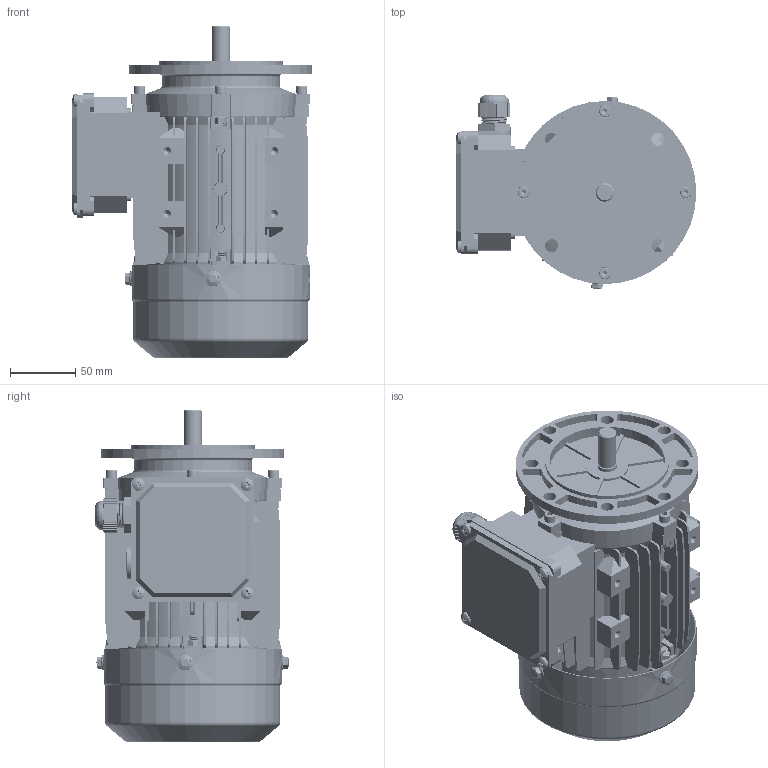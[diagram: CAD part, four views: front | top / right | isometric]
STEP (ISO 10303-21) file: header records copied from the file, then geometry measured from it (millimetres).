
FILE_DESCRIPTION (( 'STEP AP203' ), '1' );
FILE_NAME ('MS71L B5R 3D蚾饜芞.STEP', '2024-08-23T08:09:55', ( 'User' ), ( 'China' ), 'SwSTEP 2.0', 'SolidWorks 2018', '' );
FILE_SCHEMA (( 'CONFIG_CONTROL_DESIGN' ));
Length unit declared in the file: millimetre
Products named in the file (18): MS63-71諉盄碟菁釱; 蹟簸M20X1.5; MS71B5R; 黑芛20X1.5; spring lock washers--normal type gb_GB_FASTENER_WASHER_SW 5; 蚐猾25X14X4; hex nuts, style 2-grades ab gb_GB_HEXAGON_TYPE13 M5 Normal Style-S; hexagon socket head cap screws gb_GB_FASTENER_SCREWS_HSHCS M5X25-S; 8.034.07101MS71 L儂褲; MS71L  B5R  3D蚾饜芞; hex nuts, style 1-grades ab gb_GB_FASTENER_NUT_SNAB1 M5-S; 8.013.07102MS71綴傷裔; 8.306.07101MS71邧脯瑞欶; 8.200.07101MS71 L蛌粣; hex flange bolts-heavy grade b gb_GB_FASTENER_BOLT_HFBB M5X10-C; cross recessed pan head screws gb_GB_CROSS_SCREWS_TYPE1 M5X8-8  H type-C; MS63-71諉盄碟裔; 蹟杶郋M20X1.5
Assembly tree (41 placements, depth 2):
  MS71L  B5R  3D蚾饜芞
    8.034.07101MS71 L儂褲
    8.013.07102MS71綴傷裔
    8.200.07101MS71 L蛌粣
    cross recessed pan head screws gb_GB_CROSS_SCREWS_TYPE1 M5X8-8  H type-C  x8
    蹟杶郋M20X1.5
    蹟簸M20X1.5
    黑芛20X1.5
    蚐猾25X14X4
    hexagon socket head cap screws gb_GB_FASTENER_SCREWS_HSHCS M5X25-S  x8
    hex nuts, style 1-grades ab gb_GB_FASTENER_NUT_SNAB1 M5-S  x4
    8.306.07101MS71邧脯瑞欶
    hex flange bolts-heavy grade b gb_GB_FASTENER_BOLT_HFBB M5X10-C  x3
    MS63-71諉盄碟裔
    MS63-71諉盄碟菁釱
    MS71B5R
    spring lock washers--normal type gb_GB_FASTENER_WASHER_SW 5  x4
    hex nuts, style 2-grades ab gb_GB_HEXAGON_TYPE13 M5 Normal Style-S  x3
Bounding box: 184 x 148.35 x 253.83 mm (x, y, z)
Volume: 649005.6 mm3; surface area: 486466.2 mm2
Topology: 41 solids, 48 shells, 6161 faces, 14889 edges, 8888 vertices
Faces by surface type: plane 2178, cone 2105, cylinder 1615, bspline 164, torus 83, sphere 16
Entity records: 126737 total; most frequent: CARTESIAN_POINT 41627, ORIENTED_EDGE 18146, DIRECTION 15887, EDGE_CURVE 9073, VERTEX_POINT 5855, VECTOR 5361, LINE 5361, AXIS2_PLACEMENT_3D 5263
